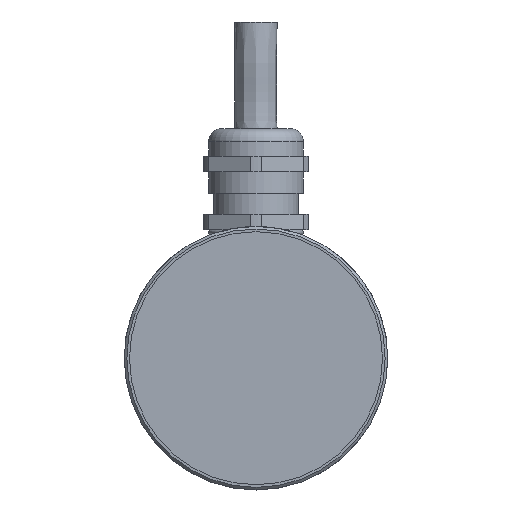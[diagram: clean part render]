
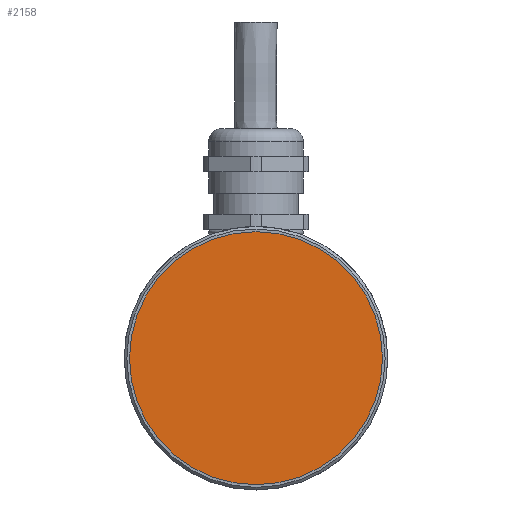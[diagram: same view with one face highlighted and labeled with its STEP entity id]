
A CAD part, left-side view. The second image highlights one B-rep face of the part: STEP entity #2158.
In plain terms, the highlighted planar face has unit normal (-1, 0, 0).
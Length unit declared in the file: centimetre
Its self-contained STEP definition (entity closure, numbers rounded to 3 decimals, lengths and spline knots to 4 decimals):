
#707=CIRCLE('',#2273,2.4);
#774=VERTEX_POINT('',#2827);
#1164=EDGE_CURVE('',#774,#774,#707,.T.);
#1413=ORIENTED_EDGE('',*,*,#1164,.T.);
#1884=EDGE_LOOP('',(#1413));
#2022=FACE_BOUND('',#1884,.T.);
#2158=ADVANCED_FACE('',(#2022),#5297,.T.);
#2273=AXIS2_PLACEMENT_3D('',#2826,#2443,#2444);
#2275=AXIS2_PLACEMENT_3D('',#2830,#2447,$);
#2443=DIRECTION('',(-1.,0.,0.));
#2444=DIRECTION('',(0.,0.,2.4));
#2447=DIRECTION('',(-1.,0.,0.));
#2826=CARTESIAN_POINT('',(0.1,0.,0.));
#2827=CARTESIAN_POINT('',(0.1,0.,2.4));
#2830=CARTESIAN_POINT('',(0.1,0.,0.));
#5297=PLANE('',#2275);
